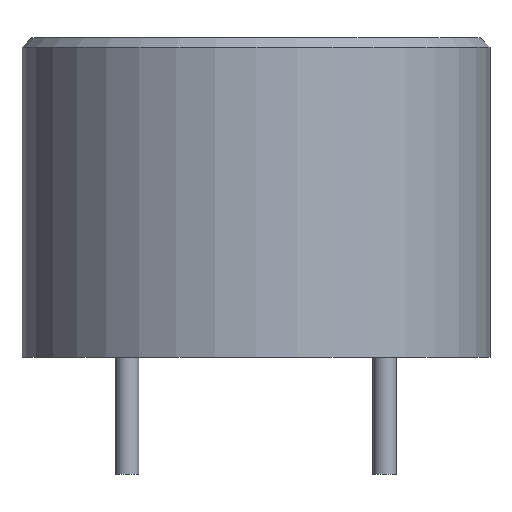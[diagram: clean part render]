
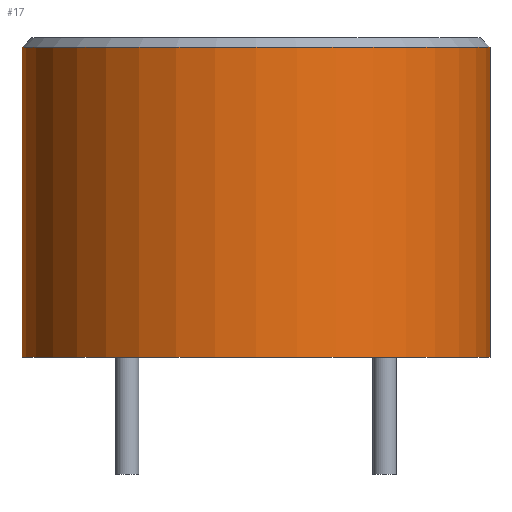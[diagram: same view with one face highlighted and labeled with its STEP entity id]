
A CAD part, front view. The second image highlights one B-rep face of the part: STEP entity #17.
In plain terms, the highlighted cylindrical face has radius 6 mm (diameter 12 mm), a full revolution.
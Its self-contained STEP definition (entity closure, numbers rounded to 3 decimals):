
#17 = ADVANCED_FACE('',(#18),#45,.T.);
#18 = FACE_BOUND('',#19,.F.);
#19 = EDGE_LOOP('',(#20,#30,#37,#38));
#20 = ORIENTED_EDGE('',*,*,#21,.T.);
#21 = EDGE_CURVE('',#22,#24,#26,.T.);
#22 = VERTEX_POINT('',#23);
#23 = CARTESIAN_POINT('',(9.3,0.,0.));
#24 = VERTEX_POINT('',#25);
#25 = CARTESIAN_POINT('',(9.3,0.,7.95));
#26 = LINE('',#27,#28);
#27 = CARTESIAN_POINT('',(9.3,0.,0.));
#28 = VECTOR('',#29,1.);
#29 = DIRECTION('',(0.,0.,1.));
#30 = ORIENTED_EDGE('',*,*,#31,.T.);
#31 = EDGE_CURVE('',#24,#24,#32,.T.);
#32 = CIRCLE('',#33,6.);
#33 = AXIS2_PLACEMENT_3D('',#34,#35,#36);
#34 = CARTESIAN_POINT('',(3.3,0.,7.95));
#35 = DIRECTION('',(0.,0.,1.));
#36 = DIRECTION('',(1.,0.,0.));
#37 = ORIENTED_EDGE('',*,*,#21,.F.);
#38 = ORIENTED_EDGE('',*,*,#39,.F.);
#39 = EDGE_CURVE('',#22,#22,#40,.T.);
#40 = CIRCLE('',#41,6.);
#41 = AXIS2_PLACEMENT_3D('',#42,#43,#44);
#42 = CARTESIAN_POINT('',(3.3,0.,0.));
#43 = DIRECTION('',(0.,0.,1.));
#44 = DIRECTION('',(1.,0.,0.));
#45 = CYLINDRICAL_SURFACE('',#46,6.);
#46 = AXIS2_PLACEMENT_3D('',#47,#48,#49);
#47 = CARTESIAN_POINT('',(3.3,0.,0.));
#48 = DIRECTION('',(-0.,-0.,-1.));
#49 = DIRECTION('',(1.,0.,0.));
